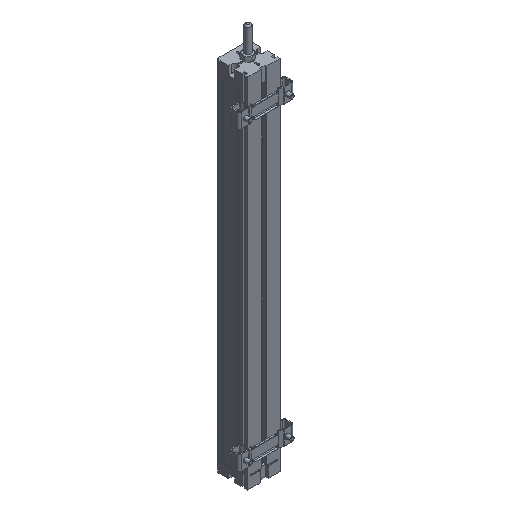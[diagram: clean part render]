
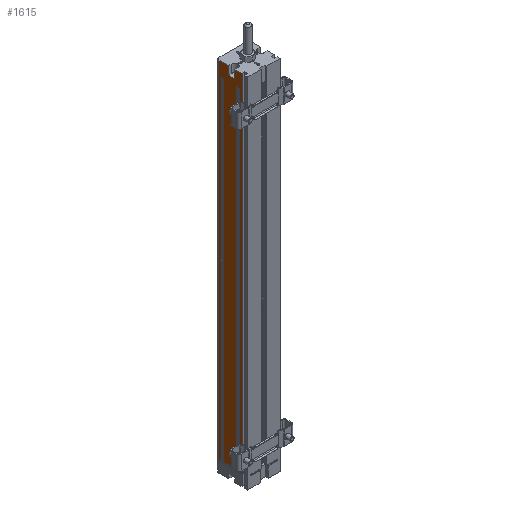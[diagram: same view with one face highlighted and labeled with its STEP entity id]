
A CAD part, isometric view. The second image highlights one B-rep face of the part: STEP entity #1615.
In plain terms, the highlighted planar face has unit normal (-1, 0, 0).
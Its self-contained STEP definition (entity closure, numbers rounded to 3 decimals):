
#1615=ADVANCED_FACE('',(#3459),#3460,.T.);
#3459=FACE_OUTER_BOUND('',#5622,.T.);
#3460=PLANE('',#5623);
#5622=EDGE_LOOP('',(#10275,#10276,#10277,#10278,#10279,#10280,#10281,#10282,#10283,#10284,#10285,#10286,#10287,#10288,#10289,#10290));
#5623=AXIS2_PLACEMENT_3D('',#10291,#10292,#10293);
#10275=ORIENTED_EDGE('',*,*,#13926,.F.);
#10276=ORIENTED_EDGE('',*,*,#13929,.T.);
#10277=ORIENTED_EDGE('',*,*,#13930,.T.);
#10278=ORIENTED_EDGE('',*,*,#13931,.T.);
#10279=ORIENTED_EDGE('',*,*,#13932,.F.);
#10280=ORIENTED_EDGE('',*,*,#13933,.T.);
#10281=ORIENTED_EDGE('',*,*,#13934,.T.);
#10282=ORIENTED_EDGE('',*,*,#13935,.T.);
#10283=ORIENTED_EDGE('',*,*,#13936,.F.);
#10284=ORIENTED_EDGE('',*,*,#13937,.T.);
#10285=ORIENTED_EDGE('',*,*,#13938,.T.);
#10286=ORIENTED_EDGE('',*,*,#13939,.F.);
#10287=ORIENTED_EDGE('',*,*,#13940,.F.);
#10288=ORIENTED_EDGE('',*,*,#13941,.F.);
#10289=ORIENTED_EDGE('',*,*,#13942,.T.);
#10290=ORIENTED_EDGE('',*,*,#13943,.F.);
#10291=CARTESIAN_POINT('',(0.0,27.0,-136.5));
#10292=DIRECTION('',(-1.0,0.0,0.0));
#10293=DIRECTION('',(0.0,0.0,1.0));
#13926=EDGE_CURVE('',#17006,#17008,#17009,.T.);
#13929=EDGE_CURVE('',#17006,#17012,#17013,.T.);
#13930=EDGE_CURVE('',#17012,#17014,#17015,.T.);
#13931=EDGE_CURVE('',#17014,#17016,#17017,.T.);
#13932=EDGE_CURVE('',#17018,#17016,#17019,.T.);
#13933=EDGE_CURVE('',#17018,#17020,#17021,.T.);
#13934=EDGE_CURVE('',#17020,#17022,#17023,.T.);
#13935=EDGE_CURVE('',#17022,#17024,#17025,.T.);
#13936=EDGE_CURVE('',#17026,#17024,#17027,.T.);
#13937=EDGE_CURVE('',#17026,#17028,#17029,.T.);
#13938=EDGE_CURVE('',#17028,#17030,#17031,.T.);
#13939=EDGE_CURVE('',#17032,#17030,#17033,.T.);
#13940=EDGE_CURVE('',#17034,#17032,#17035,.T.);
#13941=EDGE_CURVE('',#17036,#17034,#17037,.T.);
#13942=EDGE_CURVE('',#17036,#17038,#17039,.T.);
#13943=EDGE_CURVE('',#17008,#17038,#17040,.T.);
#17006=VERTEX_POINT('',#21468);
#17008=VERTEX_POINT('',#21470);
#17009=LINE('',#21471,#21472);
#17012=VERTEX_POINT('',#21475);
#17013=LINE('',#21476,#21477);
#17014=VERTEX_POINT('',#21478);
#17015=LINE('',#21479,#21480);
#17016=VERTEX_POINT('',#21481);
#17017=LINE('',#21482,#21483);
#17018=VERTEX_POINT('',#21484);
#17019=LINE('',#21485,#21486);
#17020=VERTEX_POINT('',#21487);
#17021=LINE('',#21488,#21489);
#17022=VERTEX_POINT('',#21490);
#17023=LINE('',#21491,#21492);
#17024=VERTEX_POINT('',#21493);
#17025=LINE('',#21494,#21495);
#17026=VERTEX_POINT('',#21496);
#17027=LINE('',#21497,#21498);
#17028=VERTEX_POINT('',#21499);
#17029=LINE('',#21500,#21501);
#17030=VERTEX_POINT('',#21502);
#17031=LINE('',#21503,#21504);
#17032=VERTEX_POINT('',#21505);
#17033=LINE('',#21506,#21507);
#17034=VERTEX_POINT('',#21508);
#17035=LINE('',#21509,#21510);
#17036=VERTEX_POINT('',#21511);
#17037=LINE('',#21512,#21513);
#17038=VERTEX_POINT('',#21514);
#17039=LINE('',#21515,#21516);
#17040=LINE('',#21517,#21518);
#21468=CARTESIAN_POINT('',(0.0,29.5,-136.5));
#21470=CARTESIAN_POINT('',(0.,29.5,216.3));
#21471=CARTESIAN_POINT('',(0.0,29.5,-136.5));
#21472=VECTOR('',#24970,352.8);
#21475=CARTESIAN_POINT('',(0.0,27.0,-136.5));
#21476=CARTESIAN_POINT('',(0.0,29.5,-136.5));
#21477=VECTOR('',#24974,2.5);
#21478=CARTESIAN_POINT('',(0.0,27.0,202.0));
#21479=CARTESIAN_POINT('',(0.0,27.0,-136.5));
#21480=VECTOR('',#24975,338.5);
#21481=CARTESIAN_POINT('',(0.0,24.4,202.0));
#21482=CARTESIAN_POINT('',(0.,27.0,202.0));
#21483=VECTOR('',#24976,2.6);
#21484=CARTESIAN_POINT('',(0.0,24.4,-136.5));
#21485=CARTESIAN_POINT('',(0.0,24.4,-136.5));
#21486=VECTOR('',#24977,338.5);
#21487=CARTESIAN_POINT('',(0.0,11.6,-136.5));
#21488=CARTESIAN_POINT('',(0.0,24.4,-136.5));
#21489=VECTOR('',#24978,12.8);
#21490=CARTESIAN_POINT('',(0.0,11.6,202.0));
#21491=CARTESIAN_POINT('',(0.0,11.6,-136.5));
#21492=VECTOR('',#24979,338.5);
#21493=CARTESIAN_POINT('',(0.0,9.,202.0));
#21494=CARTESIAN_POINT('',(0.,11.6,202.0));
#21495=VECTOR('',#24980,2.6);
#21496=CARTESIAN_POINT('',(0.0,9.0,-136.5));
#21497=CARTESIAN_POINT('',(0.0,9.0,-136.5));
#21498=VECTOR('',#24981,338.5);
#21499=CARTESIAN_POINT('',(0.0,6.0,-136.5));
#21500=CARTESIAN_POINT('',(0.0,9.0,-136.5));
#21501=VECTOR('',#24982,3.0);
#21502=CARTESIAN_POINT('',(0.,6.,216.3));
#21503=CARTESIAN_POINT('',(0.0,6.0,-136.5));
#21504=VECTOR('',#24983,352.8);
#21505=CARTESIAN_POINT('',(0.,13.25,216.3));
#21506=CARTESIAN_POINT('',(0.,13.25,216.3));
#21507=VECTOR('',#24984,7.25);
#21508=CARTESIAN_POINT('',(0.,13.25,208.0));
#21509=CARTESIAN_POINT('',(0.,13.25,208.0));
#21510=VECTOR('',#24985,8.3);
#21511=CARTESIAN_POINT('',(0.,19.75,208.0));
#21512=CARTESIAN_POINT('',(0.,19.75,208.0));
#21513=VECTOR('',#24986,6.5);
#21514=CARTESIAN_POINT('',(0.,19.75,216.3));
#21515=CARTESIAN_POINT('',(0.,19.75,208.0));
#21516=VECTOR('',#24987,8.3);
#21517=CARTESIAN_POINT('',(0.,29.5,216.3));
#21518=VECTOR('',#24988,9.75);
#24970=DIRECTION('',(0.0,0.0,1.0));
#24974=DIRECTION('',(0.0,-1.0,0.0));
#24975=DIRECTION('',(0.0,0.0,1.0));
#24976=DIRECTION('',(0.0,-1.0,0.0));
#24977=DIRECTION('',(0.0,0.0,1.0));
#24978=DIRECTION('',(0.0,-1.0,0.0));
#24979=DIRECTION('',(0.0,0.0,1.0));
#24980=DIRECTION('',(0.0,-1.0,0.0));
#24981=DIRECTION('',(0.0,0.0,1.0));
#24982=DIRECTION('',(0.0,-1.0,0.0));
#24983=DIRECTION('',(0.0,0.0,1.0));
#24984=DIRECTION('',(0.0,-1.0,0.0));
#24985=DIRECTION('',(0.0,0.0,1.0));
#24986=DIRECTION('',(0.0,-1.0,0.0));
#24987=DIRECTION('',(0.0,0.0,1.0));
#24988=DIRECTION('',(0.0,-1.0,0.0));
